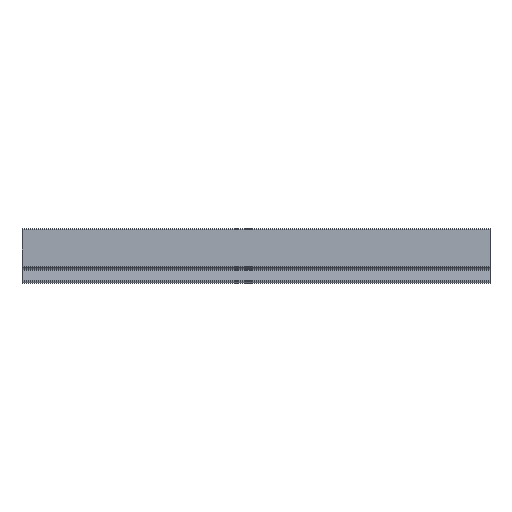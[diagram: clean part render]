
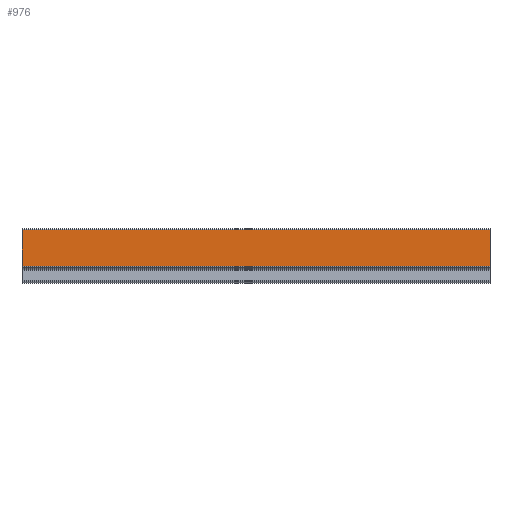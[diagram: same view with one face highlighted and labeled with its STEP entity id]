
A CAD part, top view. The second image highlights one B-rep face of the part: STEP entity #976.
In plain terms, the highlighted planar face has unit normal (0, 0, 1).
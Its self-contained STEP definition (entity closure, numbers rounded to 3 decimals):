
#16=PLANE('',#1034);
#46=FACE_OUTER_BOUND('',#98,.T.);
#98=EDGE_LOOP('',(#661,#662,#663,#664));
#152=LINE('',#1452,#254);
#153=LINE('',#1455,#255);
#154=LINE('',#1457,#256);
#155=LINE('',#1458,#257);
#254=VECTOR('',#1148,100.);
#255=VECTOR('',#1151,7.883);
#256=VECTOR('',#1152,7.883);
#257=VECTOR('',#1153,100.);
#405=VERTEX_POINT('',#1448);
#406=VERTEX_POINT('',#1450);
#407=VERTEX_POINT('',#1454);
#408=VERTEX_POINT('',#1456);
#508=EDGE_CURVE('',#405,#406,#152,.T.);
#509=EDGE_CURVE('',#405,#407,#153,.T.);
#510=EDGE_CURVE('',#408,#406,#154,.T.);
#511=EDGE_CURVE('',#407,#408,#155,.T.);
#661=ORIENTED_EDGE('',*,*,#509,.F.);
#662=ORIENTED_EDGE('',*,*,#508,.T.);
#663=ORIENTED_EDGE('',*,*,#510,.F.);
#664=ORIENTED_EDGE('',*,*,#511,.F.);
#976=ADVANCED_FACE('',(#46),#16,.T.);
#1034=AXIS2_PLACEMENT_3D('',#1453,#1149,#1150);
#1148=DIRECTION('',(1.,0.,0.));
#1149=DIRECTION('center_axis',(0.,0.,1.));
#1150=DIRECTION('ref_axis',(0.,-1.,0.));
#1151=DIRECTION('',(0.,1.,0.));
#1152=DIRECTION('',(0.,-1.,0.));
#1153=DIRECTION('',(1.,0.,0.));
#1448=CARTESIAN_POINT('',(0.,4.581,7.122));
#1450=CARTESIAN_POINT('',(100.,4.581,7.122));
#1452=CARTESIAN_POINT('',(0.,4.581,7.122));
#1453=CARTESIAN_POINT('Origin',(0.,12.464,7.122));
#1454=CARTESIAN_POINT('',(0.,12.464,7.122));
#1455=CARTESIAN_POINT('',(0.,4.581,7.122));
#1456=CARTESIAN_POINT('',(100.,12.464,7.122));
#1457=CARTESIAN_POINT('',(100.,4.581,7.122));
#1458=CARTESIAN_POINT('',(0.,12.464,7.122));
